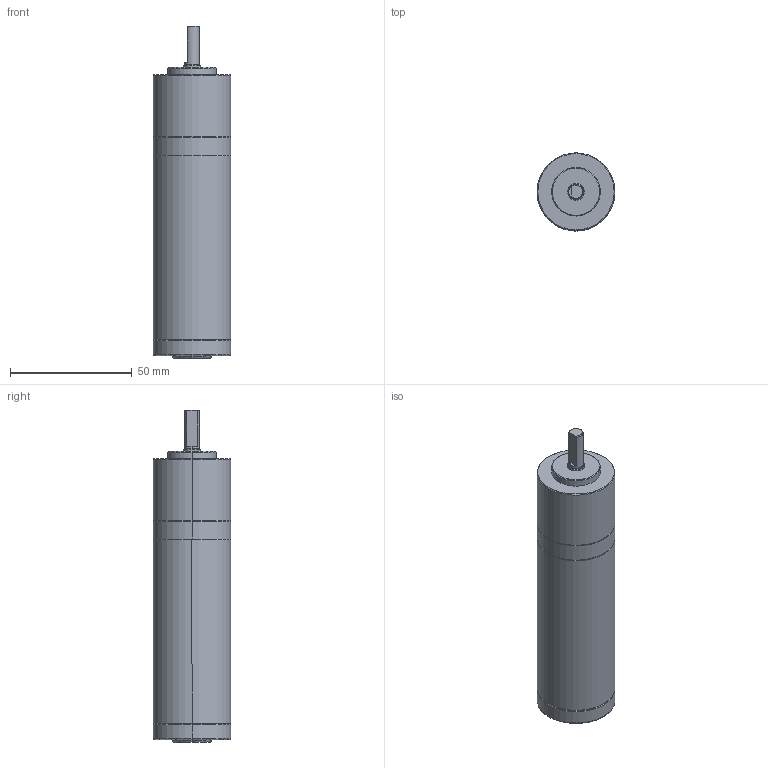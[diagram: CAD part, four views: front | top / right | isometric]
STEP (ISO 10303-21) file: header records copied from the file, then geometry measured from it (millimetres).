
FILE_DESCRIPTION (( 'STEP AP203' ), '1' );
FILE_NAME ('32BLD熬厒掀珨撰淕儂.STEP', '2021-07-13T05:05:46', ( '' ), ( '' ), 'SwSTEP 2.0', 'SolidWorks 2021', '' );
FILE_SCHEMA (( 'CONFIG_CONTROL_DESIGN' ));
Length unit declared in the file: millimetre
Products named in the file (1): 32BLD熬厒掀珨撰淕儂
Bounding box: 32 x 32 x 136.6 mm (x, y, z)
Volume: 94530.7 mm3; surface area: 13813.1 mm2
Topology: 1 solids, 1 shells, 45 faces, 97 edges, 60 vertices
Faces by surface type: cone 15, cylinder 14, plane 10, bspline 4, torus 2
Entity records: 1361 total; most frequent: CARTESIAN_POINT 281, DIRECTION 234, ORIENTED_EDGE 194, AXIS2_PLACEMENT_3D 101, EDGE_CURVE 97, VERTEX_POINT 60, CIRCLE 59, EDGE_LOOP 51
